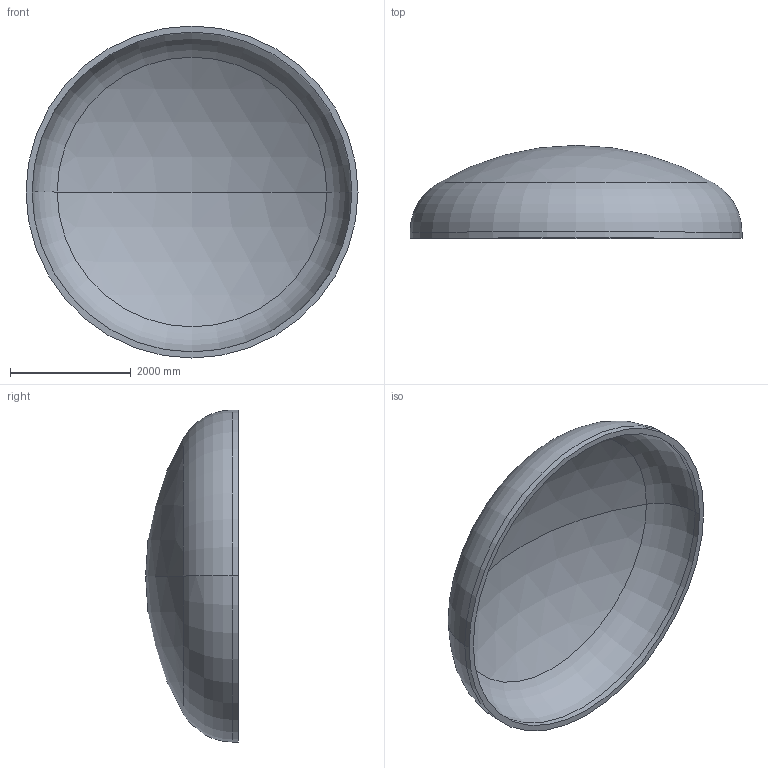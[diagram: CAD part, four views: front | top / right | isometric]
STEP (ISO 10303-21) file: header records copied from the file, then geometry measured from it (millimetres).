
FILE_DESCRIPTION (( 'STEP AP203' ), '1' );
FILE_NAME ('DIN 28013 Korbbogenform_-_Boden DIN 28013 - 5500 x 100 - I - s=100.step', '2016-07-04T10:35:09', ( '' ), ( '' ), 'SwSTEP 2.0', 'SolidWorks 2013', '' );
FILE_SCHEMA (( 'CONFIG_CONTROL_DESIGN' ));
Length unit declared in the file: millimetre
Products named in the file (1): DIN 28013 Korbbogenform_-_Boden DIN 28013 - 5500 x 100 - I - s=100
Bounding box: 5500 x 1537.32 x 5500 mm (x, y, z)
Volume: 3380710509.7 mm3; surface area: 69331589.3 mm2
Topology: 1 solids, 1 shells, 13 faces, 24 edges, 14 vertices
Faces by surface type: torus 4, cylinder 4, sphere 4, plane 1
Entity records: 407 total; most frequent: DIRECTION 72, CARTESIAN_POINT 52, ORIENTED_EDGE 48, AXIS2_PLACEMENT_3D 34, EDGE_CURVE 24, CIRCLE 20, VERTEX_POINT 14, EDGE_LOOP 14
